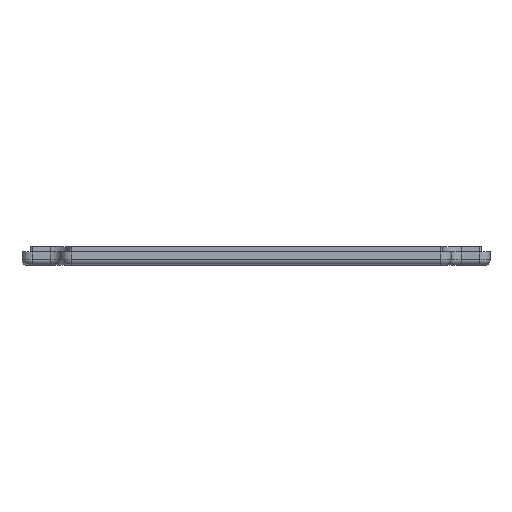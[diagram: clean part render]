
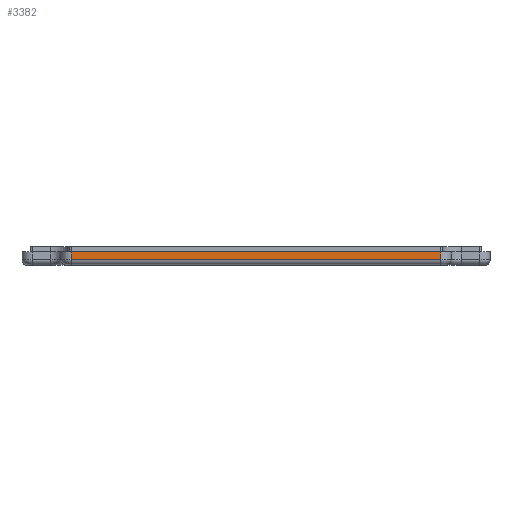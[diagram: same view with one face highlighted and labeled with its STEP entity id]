
A CAD part, top view. The second image highlights one B-rep face of the part: STEP entity #3382.
In plain terms, the highlighted planar face has unit normal (0, 0, 1).
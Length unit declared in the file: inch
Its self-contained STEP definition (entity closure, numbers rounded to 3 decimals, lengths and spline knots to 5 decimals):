
#331 = CARTESIAN_POINT ( 'NONE',  ( -2.79528, 0.19685, 2.65748 ) ) ;
#426 = DIRECTION ( 'NONE',  ( -1., 0., 0. ) ) ;
#503 = ORIENTED_EDGE ( 'NONE', *, *, #2626, .F. ) ;
#554 = VERTEX_POINT ( 'NONE', #1009 ) ;
#565 = VECTOR ( 'NONE', #1445, 39.37008 ) ;
#766 = VERTEX_POINT ( 'NONE', #1693 ) ;
#807 = VECTOR ( 'NONE', #3681, 39.37008 ) ;
#1009 = CARTESIAN_POINT ( 'NONE',  ( -2.79528, 0.07874, 2.65748 ) ) ;
#1156 = CARTESIAN_POINT ( 'NONE',  ( -2.79528, 0.07874, 2.65748 ) ) ;
#1339 = LINE ( 'NONE', #6776, #2208 ) ;
#1445 = DIRECTION ( 'NONE',  ( 0., -1., 0. ) ) ;
#1521 = VERTEX_POINT ( 'NONE', #4250 ) ;
#1693 = CARTESIAN_POINT ( 'NONE',  ( 2.79528, 0.19685, 2.65748 ) ) ;
#1736 = EDGE_LOOP ( 'NONE', ( #5423, #2871, #2942, #503 ) ) ;
#1754 = VECTOR ( 'NONE', #6618, 39.37008 ) ;
#2208 = VECTOR ( 'NONE', #4084, 39.37008 ) ;
#2602 = EDGE_CURVE ( 'NONE', #4847, #554, #3588, .T. ) ;
#2623 = PLANE ( 'NONE',  #6982 ) ;
#2626 = EDGE_CURVE ( 'NONE', #4847, #766, #1339, .T. ) ;
#2871 = ORIENTED_EDGE ( 'NONE', *, *, #3924, .T. ) ;
#2942 = ORIENTED_EDGE ( 'NONE', *, *, #4884, .F. ) ;
#3228 = DIRECTION ( 'NONE',  ( 0., 0., -1. ) ) ;
#3382 = ADVANCED_FACE ( 'NONE', ( #5360 ), #2623, .F. ) ;
#3588 = LINE ( 'NONE', #5685, #565 ) ;
#3681 = DIRECTION ( 'NONE',  ( 0., -1., 0. ) ) ;
#3738 = CARTESIAN_POINT ( 'NONE',  ( -2.79528, 0.19685, 2.65748 ) ) ;
#3924 = EDGE_CURVE ( 'NONE', #554, #1521, #5184, .T. ) ;
#4084 = DIRECTION ( 'NONE',  ( 1., 0., 0. ) ) ;
#4250 = CARTESIAN_POINT ( 'NONE',  ( 2.79528, 0.07874, 2.65748 ) ) ;
#4847 = VERTEX_POINT ( 'NONE', #331 ) ;
#4884 = EDGE_CURVE ( 'NONE', #766, #1521, #5512, .T. ) ;
#5184 = LINE ( 'NONE', #1156, #1754 ) ;
#5334 = CARTESIAN_POINT ( 'NONE',  ( 2.79528, 0.19685, 2.65748 ) ) ;
#5360 = FACE_OUTER_BOUND ( 'NONE', #1736, .T. ) ;
#5423 = ORIENTED_EDGE ( 'NONE', *, *, #2602, .T. ) ;
#5512 = LINE ( 'NONE', #5334, #807 ) ;
#5685 = CARTESIAN_POINT ( 'NONE',  ( -2.79528, 0.19685, 2.65748 ) ) ;
#6618 = DIRECTION ( 'NONE',  ( 1., 0., 0. ) ) ;
#6776 = CARTESIAN_POINT ( 'NONE',  ( -2.79528, 0.19685, 2.65748 ) ) ;
#6982 = AXIS2_PLACEMENT_3D ( 'NONE', #3738, #3228, #426 ) ;
